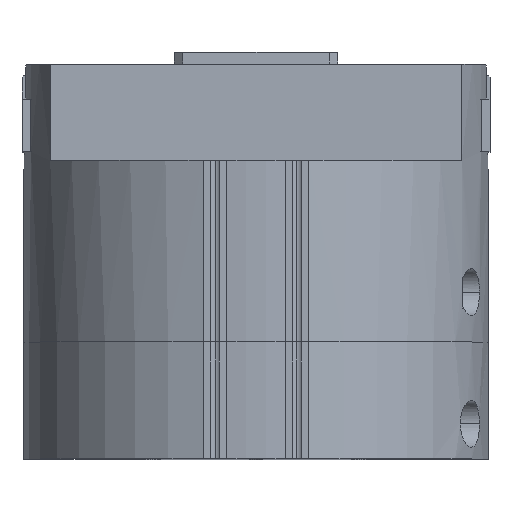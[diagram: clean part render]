
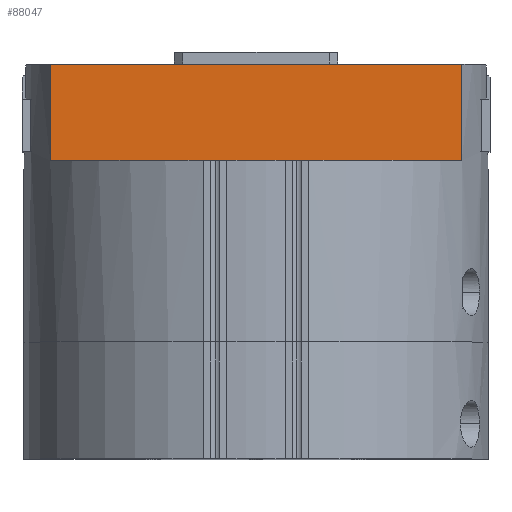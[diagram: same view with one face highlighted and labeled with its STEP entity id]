
A CAD part, top view. The second image highlights one B-rep face of the part: STEP entity #88047.
In plain terms, the highlighted planar face has unit normal (0, 0, 1).
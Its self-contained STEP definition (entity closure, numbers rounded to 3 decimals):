
#3869 = ORIENTED_EDGE ( 'NONE', *, *, #11646, .F. ) ;
#4443 = LINE ( 'NONE', #110574, #93672 ) ;
#6205 = VERTEX_POINT ( 'NONE', #80567 ) ;
#9659 = VERTEX_POINT ( 'NONE', #44877 ) ;
#11646 = EDGE_CURVE ( 'NONE', #26992, #93338, #4443, .T. ) ;
#11992 = VECTOR ( 'NONE', #76985, 1000. ) ;
#12664 = DIRECTION ( 'NONE',  ( 0., 1., 0. ) ) ;
#14848 = LINE ( 'NONE', #71995, #103989 ) ;
#18521 = DIRECTION ( 'NONE',  ( -1., 0., 0. ) ) ;
#26992 = VERTEX_POINT ( 'NONE', #64160 ) ;
#29818 = EDGE_LOOP ( 'NONE', ( #53962, #88932, #3869, #45811 ) ) ;
#32306 = LINE ( 'NONE', #111346, #11992 ) ;
#33573 = DIRECTION ( 'NONE',  ( 0., -1., 0. ) ) ;
#44877 = CARTESIAN_POINT ( 'NONE',  ( -70.365, 95., 37. ) ) ;
#45811 = ORIENTED_EDGE ( 'NONE', *, *, #77614, .F. ) ;
#52055 = CARTESIAN_POINT ( 'NONE',  ( 70.365, 62., 37. ) ) ;
#53962 = ORIENTED_EDGE ( 'NONE', *, *, #103996, .F. ) ;
#61541 = CARTESIAN_POINT ( 'NONE',  ( -70.365, 62., 37. ) ) ;
#61617 = AXIS2_PLACEMENT_3D ( 'NONE', #61541, #70208, #18521 ) ;
#64160 = CARTESIAN_POINT ( 'NONE',  ( 70.365, 95., 37. ) ) ;
#65870 = FACE_OUTER_BOUND ( 'NONE', #29818, .T. ) ;
#69673 = VECTOR ( 'NONE', #12664, 1000. ) ;
#70208 = DIRECTION ( 'NONE',  ( 0., 0., -1. ) ) ;
#71995 = CARTESIAN_POINT ( 'NONE',  ( 0., 95., 37. ) ) ;
#76985 = DIRECTION ( 'NONE',  ( -1., 0., 0. ) ) ;
#77614 = EDGE_CURVE ( 'NONE', #9659, #26992, #14848, .T. ) ;
#80567 = CARTESIAN_POINT ( 'NONE',  ( -70.365, 62., 37. ) ) ;
#80935 = EDGE_CURVE ( 'NONE', #93338, #6205, #32306, .T. ) ;
#88047 = ADVANCED_FACE ( 'NONE', ( #65870 ), #103449, .F. ) ;
#88932 = ORIENTED_EDGE ( 'NONE', *, *, #80935, .F. ) ;
#92647 = LINE ( 'NONE', #107440, #69673 ) ;
#93338 = VERTEX_POINT ( 'NONE', #52055 ) ;
#93672 = VECTOR ( 'NONE', #33573, 1000. ) ;
#103449 = PLANE ( 'NONE',  #61617 ) ;
#103989 = VECTOR ( 'NONE', #106729, 1000. ) ;
#103996 = EDGE_CURVE ( 'NONE', #6205, #9659, #92647, .T. ) ;
#106729 = DIRECTION ( 'NONE',  ( 1., 0., 0. ) ) ;
#107440 = CARTESIAN_POINT ( 'NONE',  ( -70.365, 95., 37. ) ) ;
#110574 = CARTESIAN_POINT ( 'NONE',  ( 70.365, 95., 37. ) ) ;
#111346 = CARTESIAN_POINT ( 'NONE',  ( 0., 62., 37. ) ) ;
